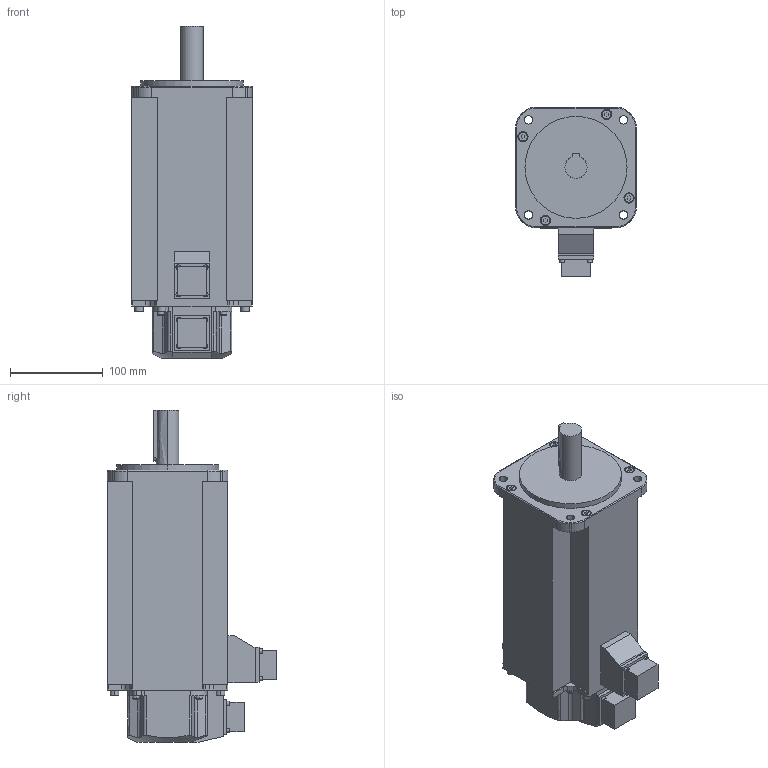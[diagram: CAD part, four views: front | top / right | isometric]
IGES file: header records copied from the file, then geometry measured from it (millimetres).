
Start section:  PTC IGES file: rsms_45atk3.igs
Global section: file name: rsms_45atk3.igs; native system: Pro/ENGINEER by Parametric Technology Corporation; preprocessor: 2004440; author: Administrator; organization: Unknown; date: 070829.195646; units: millimetre
Bounding box: 130 x 182.7 x 358 mm (x, y, z)
Volume: 3901849.6 mm3; surface area: 195704.6 mm2
Topology: 1 solids, 1 shells, 290 faces, 744 edges, 488 vertices
Faces by surface type: bspline 164, revolution 126
